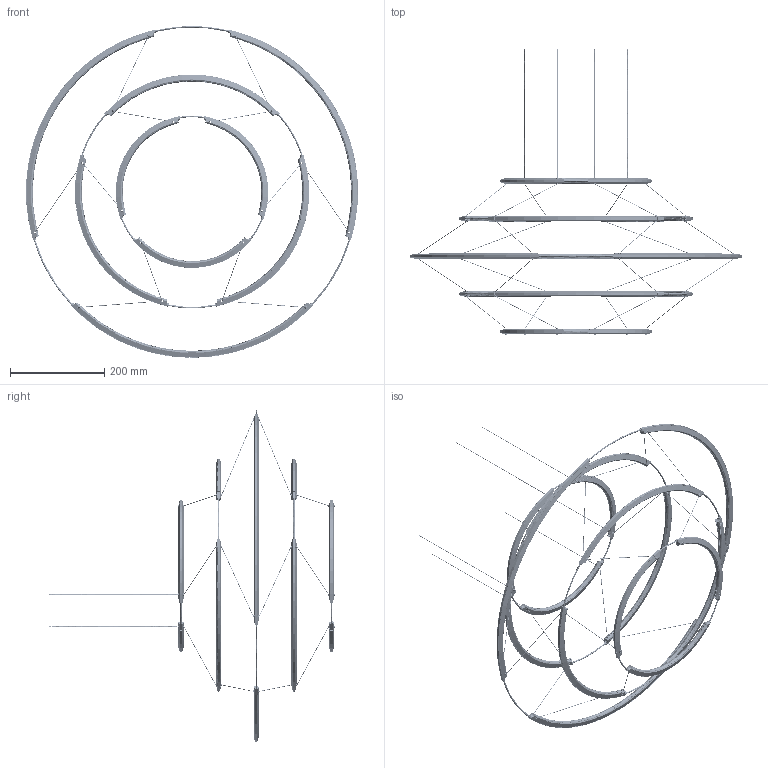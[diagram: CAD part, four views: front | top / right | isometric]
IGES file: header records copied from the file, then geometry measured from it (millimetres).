
Start section: SolidWorks IGES file using analytic representation for surfaces
Global section: file name: N:\- Ingeneria\DISEGNI\PRODOTTI\DROP\800DRPLNN511\800DRPLNN511.IGS; native system: SolidWorks 2016; preprocessor: SolidWorks 2016; author: BenedettoLiVolsi; date: 230613.124246; units: millimetre
Bounding box: 705.87 x 606.4 x 704.8 mm (x, y, z)
Surface area: 605468.4 mm2 (no closed solid volume)
Topology: 0 solids, 0 shells, 7314 faces, 70407 edges, 70167 vertices
Faces by surface type: bspline 4131, revolution 3183
